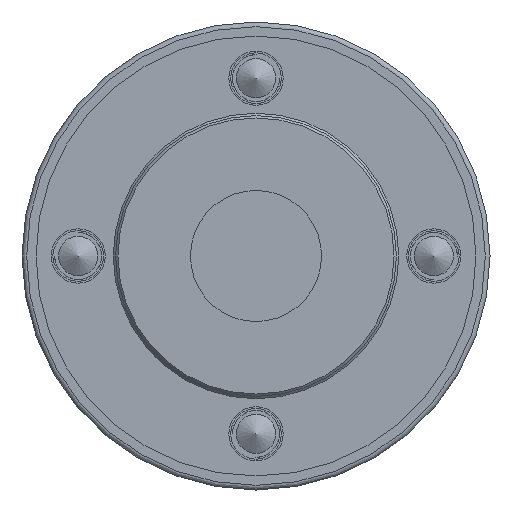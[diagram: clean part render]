
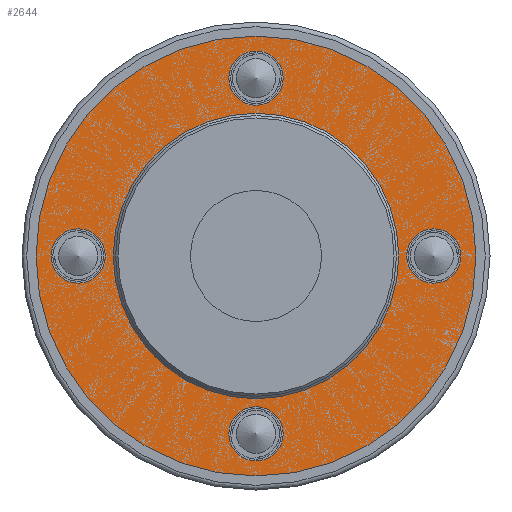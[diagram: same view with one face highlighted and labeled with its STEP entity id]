
A CAD part, front view. The second image highlights one B-rep face of the part: STEP entity #2644.
In plain terms, the highlighted planar face has unit normal (0, -1, 0).
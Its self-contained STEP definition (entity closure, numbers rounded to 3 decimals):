
#68 = CARTESIAN_POINT ( 'NONE',  ( 0., -8., -21.9 ) ) ;
#183 = DIRECTION ( 'NONE',  ( 0., 0., -1. ) ) ;
#243 = VERTEX_POINT ( 'NONE', #5643 ) ;
#289 = FACE_BOUND ( 'NONE', #5673, .T. ) ;
#370 = AXIS2_PLACEMENT_3D ( 'NONE', #5619, #3360, #183 ) ;
#449 = CIRCLE ( 'NONE', #370, 2.9 ) ;
#497 = DIRECTION ( 'NONE',  ( 0., 1., 0. ) ) ;
#509 = ORIENTED_EDGE ( 'NONE', *, *, #529, .T. ) ;
#529 = EDGE_CURVE ( 'NONE', #3726, #3726, #4607, .T. ) ;
#794 = AXIS2_PLACEMENT_3D ( 'NONE', #2176, #4883, #1281 ) ;
#800 = CARTESIAN_POINT ( 'NONE',  ( 0., -8., -23.5 ) ) ;
#949 = CARTESIAN_POINT ( 'NONE',  ( 0., -8., 0. ) ) ;
#1005 = EDGE_LOOP ( 'NONE', ( #1669 ) ) ;
#1021 = ORIENTED_EDGE ( 'NONE', *, *, #1857, .T. ) ;
#1104 = DIRECTION ( 'NONE',  ( 0., 0., -1. ) ) ;
#1161 = EDGE_CURVE ( 'NONE', #5516, #5516, #4268, .T. ) ;
#1226 = DIRECTION ( 'NONE',  ( 0., -1., 0. ) ) ;
#1240 = EDGE_CURVE ( 'NONE', #5571, #5571, #2649, .T. ) ;
#1244 = EDGE_LOOP ( 'NONE', ( #4014 ) ) ;
#1281 = DIRECTION ( 'NONE',  ( 0., 0., -1. ) ) ;
#1326 = EDGE_LOOP ( 'NONE', ( #509 ) ) ;
#1606 = AXIS2_PLACEMENT_3D ( 'NONE', #5218, #2015, #4774 ) ;
#1669 = ORIENTED_EDGE ( 'NONE', *, *, #1240, .T. ) ;
#1678 = PLANE ( 'NONE',  #2763 ) ;
#1857 = EDGE_CURVE ( 'NONE', #243, #243, #449, .T. ) ;
#1903 = EDGE_LOOP ( 'NONE', ( #1021 ) ) ;
#2015 = DIRECTION ( 'NONE',  ( 0., 1., 0. ) ) ;
#2176 = CARTESIAN_POINT ( 'NONE',  ( 19., -8., 0. ) ) ;
#2394 = DIRECTION ( 'NONE',  ( 0., 1., 0. ) ) ;
#2452 = EDGE_LOOP ( 'NONE', ( #4071 ) ) ;
#2644 = ADVANCED_FACE ( 'NONE', ( #5788, #289, #3910, #3036, #4416, #5753 ), #1678, .T. ) ;
#2649 = CIRCLE ( 'NONE', #2930, 2.9 ) ;
#2763 = AXIS2_PLACEMENT_3D ( 'NONE', #3482, #1226, #4603 ) ;
#2930 = AXIS2_PLACEMENT_3D ( 'NONE', #4335, #2394, #5609 ) ;
#3036 = FACE_BOUND ( 'NONE', #1244, .T. ) ;
#3053 = CIRCLE ( 'NONE', #5566, 23.5 ) ;
#3077 = VERTEX_POINT ( 'NONE', #800 ) ;
#3232 = CARTESIAN_POINT ( 'NONE',  ( -19., -8., -2.9 ) ) ;
#3290 = ORIENTED_EDGE ( 'NONE', *, *, #1161, .T. ) ;
#3360 = DIRECTION ( 'NONE',  ( 0., 1., 0. ) ) ;
#3458 = EDGE_CURVE ( 'NONE', #3077, #3077, #3053, .T. ) ;
#3482 = CARTESIAN_POINT ( 'NONE',  ( 14.5, -8., 0. ) ) ;
#3625 = DIRECTION ( 'NONE',  ( 0., 0., -1. ) ) ;
#3726 = VERTEX_POINT ( 'NONE', #5011 ) ;
#3734 = CIRCLE ( 'NONE', #4812, 15. ) ;
#3763 = EDGE_CURVE ( 'NONE', #4809, #4809, #3734, .T. ) ;
#3893 = CARTESIAN_POINT ( 'NONE',  ( 0., -8., -15. ) ) ;
#3910 = FACE_BOUND ( 'NONE', #1903, .T. ) ;
#4014 = ORIENTED_EDGE ( 'NONE', *, *, #3763, .T. ) ;
#4071 = ORIENTED_EDGE ( 'NONE', *, *, #3458, .T. ) ;
#4268 = CIRCLE ( 'NONE', #1606, 2.9 ) ;
#4335 = CARTESIAN_POINT ( 'NONE',  ( 0., -8., -19. ) ) ;
#4416 = FACE_OUTER_BOUND ( 'NONE', #2452, .T. ) ;
#4603 = DIRECTION ( 'NONE',  ( 0., 0., -1. ) ) ;
#4607 = CIRCLE ( 'NONE', #794, 2.9 ) ;
#4764 = CARTESIAN_POINT ( 'NONE',  ( 0., -8., 0. ) ) ;
#4774 = DIRECTION ( 'NONE',  ( 0., 0., -1. ) ) ;
#4809 = VERTEX_POINT ( 'NONE', #3893 ) ;
#4812 = AXIS2_PLACEMENT_3D ( 'NONE', #949, #497, #3625 ) ;
#4883 = DIRECTION ( 'NONE',  ( 0., 1., 0. ) ) ;
#5011 = CARTESIAN_POINT ( 'NONE',  ( 19., -8., -2.9 ) ) ;
#5208 = DIRECTION ( 'NONE',  ( 0., -1., 0. ) ) ;
#5218 = CARTESIAN_POINT ( 'NONE',  ( -19., -8., 0. ) ) ;
#5516 = VERTEX_POINT ( 'NONE', #3232 ) ;
#5566 = AXIS2_PLACEMENT_3D ( 'NONE', #4764, #5208, #1104 ) ;
#5571 = VERTEX_POINT ( 'NONE', #68 ) ;
#5609 = DIRECTION ( 'NONE',  ( 0., 0., -1. ) ) ;
#5619 = CARTESIAN_POINT ( 'NONE',  ( 0., -8., 19. ) ) ;
#5643 = CARTESIAN_POINT ( 'NONE',  ( 0., -8., 16.1 ) ) ;
#5673 = EDGE_LOOP ( 'NONE', ( #3290 ) ) ;
#5753 = FACE_BOUND ( 'NONE', #1326, .T. ) ;
#5788 = FACE_BOUND ( 'NONE', #1005, .T. ) ;
